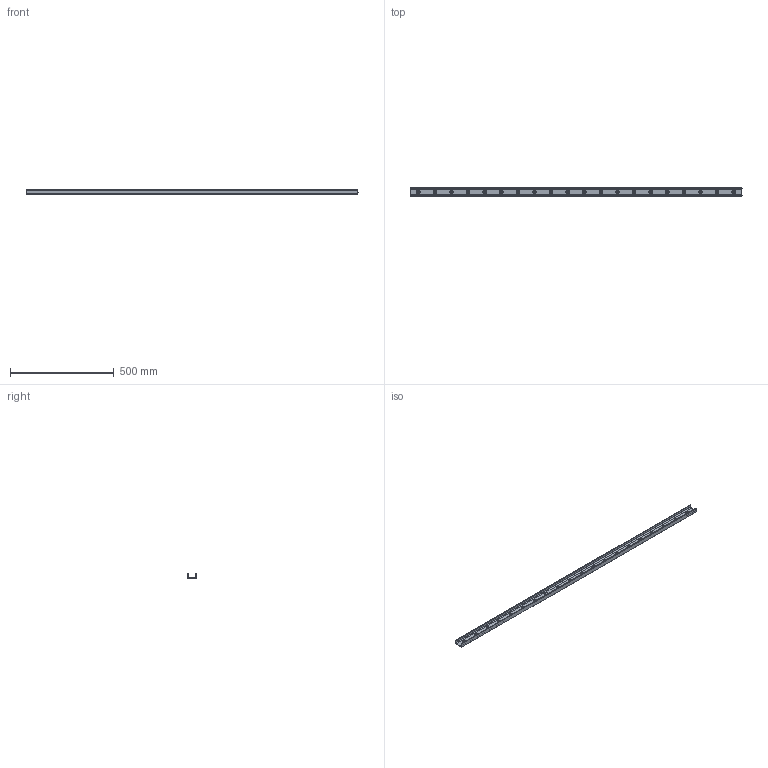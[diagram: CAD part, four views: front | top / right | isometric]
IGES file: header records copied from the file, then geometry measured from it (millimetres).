
Start section: SolidWorks IGES file using analytic representation for surfaces
Global section: file name: C:\Users\IanO\Desktop\43\L1943.ULV43_v2_20180121_IGES\L1943.ULV43-1600.igs; native system: SolidWorks 2017; preprocessor: SolidWorks 2017; author: IanO; date: 190121.090121; units: millimetre
Bounding box: 1600 x 43 x 21 mm (x, y, z)
Surface area: 248551.2 mm2 (no closed solid volume)
Topology: 0 solids, 0 shells, 106 faces, 1894 edges, 1894 vertices
Faces by surface type: revolution 93, bspline 13
